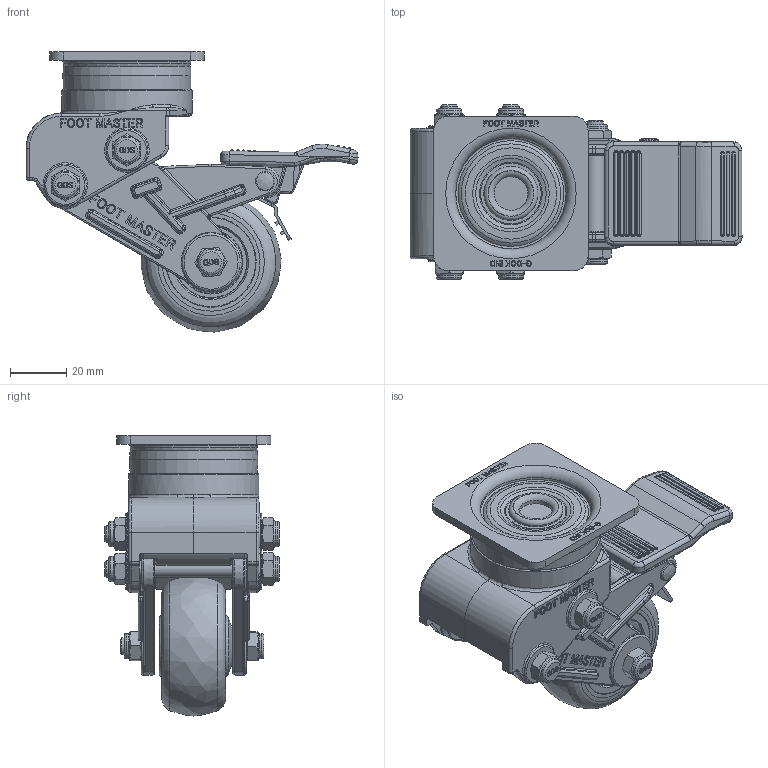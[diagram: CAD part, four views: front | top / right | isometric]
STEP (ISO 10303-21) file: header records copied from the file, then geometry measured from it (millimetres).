
FILE_DESCRIPTION(/* description */ (''),/* implementation_level */ '2;1');
FILE_NAME(/* name */ 'C:\Users\admin\Desktop\JYS\개발품\상세설계_20220328\홈페이지용 도면\GDS-50-BSF-EUS.stp',/* time_stamp */ '2023-03-08T14:52:59+09:00',/* author */ ('admin'),/* organization */ (''),/* preprocessor_version */ 'ST-DEVELOPER v18.1',/* originating_system */ 'Autodesk Inventor 2021',/* authorisation */ '');
FILE_SCHEMA (('AUTOMOTIVE_DESIGN { 1 0 10303 214 3 1 1 }'));
Products named in the file (1): GDS-50_BSF_REV01_Shrinkwrap_1
Bounding box: 118.43 x 62.3 x 99.97 mm (x, y, z)
Volume: 138302.7 mm3; surface area: 56396.7 mm2
Topology: 1 solids, 1 shells, 2677 faces, 6899 edges, 4323 vertices
Faces by surface type: plane 928, bspline 836, cylinder 538, cone 165, torus 158, sphere 52
Full cylindrical faces by diameter (mm): 2 x1, 4 x3, 6 x5, 7 x2, 8.8 x3, 9 x6, 12 x1, 17.216 x2, 18 x1, 19.3 x1, 20 x2, 22 x2, 22.784 x2, 30 x1, 43 x1, 44.5 x1, 46.5 x1
Entity records: 93420 total; most frequent: CARTESIAN_POINT 29994, ORIENTED_EDGE 13722, DIRECTION 10896, EDGE_CURVE 6861, VERTEX_POINT 4323, AXIS2_PLACEMENT_3D 3839, LINE 3218, VECTOR 3218
